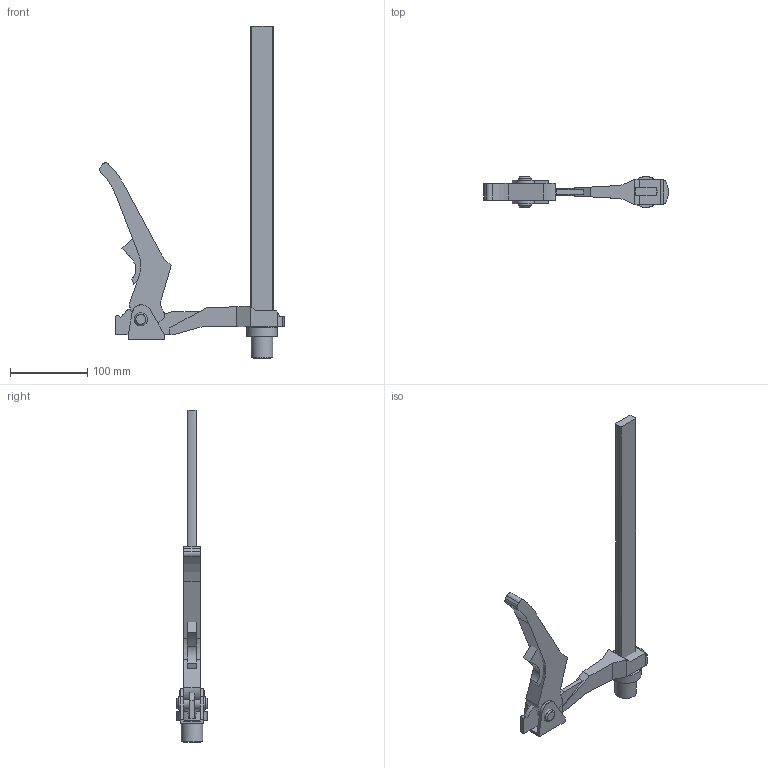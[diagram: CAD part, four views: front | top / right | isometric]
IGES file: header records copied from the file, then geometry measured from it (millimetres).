
Start section: ZWSOFT
Global section: file name: TW28-30-14H.igs; native system: ZW3D; preprocessor: 1.0; author: ZW3D; organization: ZWSOFT; date: 140408.145526; units: millimetre
Bounding box: 239.16 x 40 x 430 mm (x, y, z)
Surface area: 95519.4 mm2 (no closed solid volume)
Topology: 0 solids, 0 shells, 89 faces, 489 edges, 478 vertices
Faces by surface type: bspline 89
